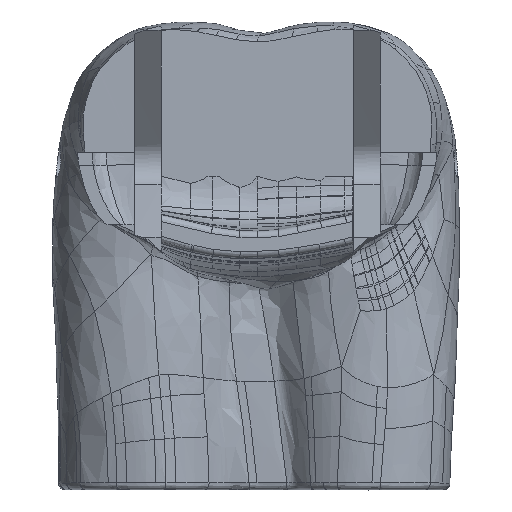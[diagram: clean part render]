
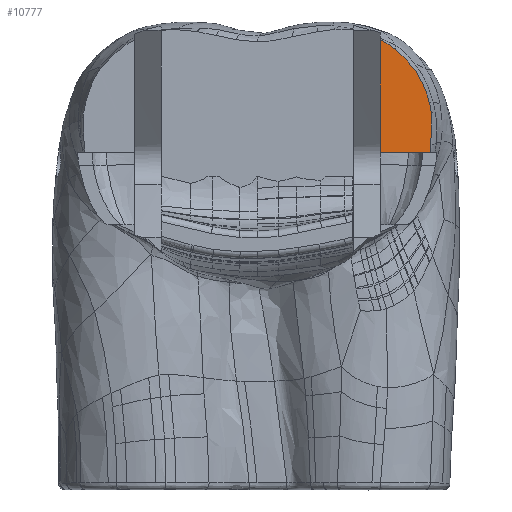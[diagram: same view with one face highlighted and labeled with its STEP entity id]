
A CAD part, top view. The second image highlights one B-rep face of the part: STEP entity #10777.
In plain terms, the highlighted planar face has unit normal (0, 0, 1).
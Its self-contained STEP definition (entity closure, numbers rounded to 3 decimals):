
#93=LINE('',#66846,#186);
#97=LINE('',#68137,#190);
#98=LINE('',#68139,#191);
#99=LINE('',#68141,#192);
#100=LINE('',#68143,#193);
#186=VECTOR('',#11305,28.854);
#190=VECTOR('',#11317,78.789);
#191=VECTOR('',#11318,20.617);
#192=VECTOR('',#11319,16.149);
#193=VECTOR('',#11320,10.483);
#253=PLANE('',#11094);
#1417=FACE_OUTER_BOUND('',#2127,.T.);
#2127=EDGE_LOOP('',(#9101,#9102,#9103,#9104,#9105,#9106,#9107,#9108,#9109,
#9110,#9111));
#3538=B_SPLINE_CURVE_WITH_KNOTS('',3,(#68107,#68108,#68109,#68110,#68111,
#68112,#68113,#68114,#68115,#68116,#68117,#68118,#68119,#68120,#68121,#68122,
#68123,#68124,#68125),.UNSPECIFIED.,.F.,.F.,(4,3,3,3,3,3,4),(0.,0.,
0.187,0.375,0.531,0.687,
1.),.UNSPECIFIED.);
#3539=B_SPLINE_CURVE_WITH_KNOTS('',3,(#68127,#68128,#68129,#68130,#68131,
#68132,#68133,#68134,#68135,#68136),.UNSPECIFIED.,.F.,.F.,(4,3,3,4),(0.,
0.089,0.544,1.),.UNSPECIFIED.);
#3540=B_SPLINE_CURVE_WITH_KNOTS('',3,(#68145,#68146,#68147,#68148),
 .UNSPECIFIED.,.F.,.F.,(4,4),(0.,1.),.UNSPECIFIED.);
#3541=B_SPLINE_CURVE_WITH_KNOTS('',3,(#68150,#68151,#68152,#68153,#68154,
#68155,#68156,#68157,#68158,#68159,#68160,#68161,#68162,#68163,#68164,#68165,
#68166,#68167,#68168,#68169,#68170,#68171),.UNSPECIFIED.,.F.,.F.,(4,3,3,
3,3,3,3,4),(-1.,-0.828,-0.657,-0.606,
-0.555,-0.416,-0.277,0.),
 .UNSPECIFIED.);
#3542=B_SPLINE_CURVE_WITH_KNOTS('',3,(#68173,#68174,#68175,#68176),
 .UNSPECIFIED.,.F.,.F.,(4,4),(-1.,0.),.UNSPECIFIED.);
#3543=B_SPLINE_CURVE_WITH_KNOTS('',3,(#68177,#68178,#68179,#68180,#68181,
#68182,#68183),.UNSPECIFIED.,.F.,.F.,(4,3,4),(-1.,0.,
0.),.UNSPECIFIED.);
#4737=VERTEX_POINT('',#66843);
#4738=VERTEX_POINT('',#66845);
#4756=VERTEX_POINT('',#68105);
#4757=VERTEX_POINT('',#68106);
#4758=VERTEX_POINT('',#68126);
#4759=VERTEX_POINT('',#68138);
#4760=VERTEX_POINT('',#68140);
#4761=VERTEX_POINT('',#68142);
#4762=VERTEX_POINT('',#68144);
#4763=VERTEX_POINT('',#68149);
#4764=VERTEX_POINT('',#68172);
#6239=EDGE_CURVE('',#4738,#4737,#93,.F.);
#6276=EDGE_CURVE('',#4756,#4757,#3538,.T.);
#6277=EDGE_CURVE('',#4758,#4756,#3539,.T.);
#6278=EDGE_CURVE('',#4758,#4738,#97,.F.);
#6279=EDGE_CURVE('',#4759,#4737,#98,.T.);
#6280=EDGE_CURVE('',#4760,#4759,#99,.T.);
#6281=EDGE_CURVE('',#4761,#4760,#100,.T.);
#6282=EDGE_CURVE('',#4762,#4761,#3540,.T.);
#6283=EDGE_CURVE('',#4763,#4762,#3541,.T.);
#6284=EDGE_CURVE('',#4764,#4763,#3542,.T.);
#6285=EDGE_CURVE('',#4757,#4764,#3543,.T.);
#9101=ORIENTED_EDGE('',*,*,#6276,.F.);
#9102=ORIENTED_EDGE('',*,*,#6277,.F.);
#9103=ORIENTED_EDGE('',*,*,#6278,.T.);
#9104=ORIENTED_EDGE('',*,*,#6239,.T.);
#9105=ORIENTED_EDGE('',*,*,#6279,.F.);
#9106=ORIENTED_EDGE('',*,*,#6280,.F.);
#9107=ORIENTED_EDGE('',*,*,#6281,.F.);
#9108=ORIENTED_EDGE('',*,*,#6282,.F.);
#9109=ORIENTED_EDGE('',*,*,#6283,.F.);
#9110=ORIENTED_EDGE('',*,*,#6284,.F.);
#9111=ORIENTED_EDGE('',*,*,#6285,.F.);
#10777=ADVANCED_FACE('',(#1417),#253,.F.);
#11094=AXIS2_PLACEMENT_3D('',#68104,#11315,#11316);
#11305=DIRECTION('',(0.,1.,0.));
#11315=DIRECTION('center_axis',(0.,0.,-1.));
#11316=DIRECTION('ref_axis',(-1.,0.,0.));
#11317=DIRECTION('',(0.,1.,0.));
#11318=DIRECTION('',(-1.,0.,0.));
#11319=DIRECTION('',(-1.,0.,0.));
#11320=DIRECTION('',(-1.,0.,0.));
#66843=CARTESIAN_POINT('',(117.961,-124.355,-65.885));
#66845=CARTESIAN_POINT('',(117.961,-95.501,-65.885));
#66846=CARTESIAN_POINT('',(117.961,-124.355,-65.885));
#68104=CARTESIAN_POINT('Origin',(0.,-222.899,-65.885));
#68105=CARTESIAN_POINT('',(132.373,-26.384,-65.88));
#68106=CARTESIAN_POINT('',(152.296,-46.84,-65.885));
#68107=CARTESIAN_POINT('Ctrl Pts',(132.376,-26.383,-65.885));
#68108=CARTESIAN_POINT('Ctrl Pts',(132.376,-26.383,-65.885));
#68109=CARTESIAN_POINT('Ctrl Pts',(132.376,-26.383,-65.885));
#68110=CARTESIAN_POINT('Ctrl Pts',(132.376,-26.383,-65.885));
#68111=CARTESIAN_POINT('Ctrl Pts',(133.77,-27.506,-65.885));
#68112=CARTESIAN_POINT('Ctrl Pts',(135.123,-28.681,-65.885));
#68113=CARTESIAN_POINT('Ctrl Pts',(136.441,-29.89,-65.885));
#68114=CARTESIAN_POINT('Ctrl Pts',(137.759,-31.1,-65.885));
#68115=CARTESIAN_POINT('Ctrl Pts',(139.043,-32.344,-65.885));
#68116=CARTESIAN_POINT('Ctrl Pts',(140.304,-33.608,-65.885));
#68117=CARTESIAN_POINT('Ctrl Pts',(141.356,-34.664,-65.885));
#68118=CARTESIAN_POINT('Ctrl Pts',(142.392,-35.734,-65.885));
#68119=CARTESIAN_POINT('Ctrl Pts',(143.414,-36.816,-65.885));
#68120=CARTESIAN_POINT('Ctrl Pts',(144.437,-37.899,-65.885));
#68121=CARTESIAN_POINT('Ctrl Pts',(145.446,-38.995,-65.885));
#68122=CARTESIAN_POINT('Ctrl Pts',(146.442,-40.101,-65.885));
#68123=CARTESIAN_POINT('Ctrl Pts',(148.435,-42.311,-65.885));
#68124=CARTESIAN_POINT('Ctrl Pts',(150.38,-44.562,-65.885));
#68125=CARTESIAN_POINT('Ctrl Pts',(152.294,-46.837,-65.885));
#68126=CARTESIAN_POINT('',(117.961,-16.712,-65.885));
#68127=CARTESIAN_POINT('Ctrl Pts',(117.961,-16.712,-65.885));
#68128=CARTESIAN_POINT('Ctrl Pts',(118.433,-16.921,-65.885));
#68129=CARTESIAN_POINT('Ctrl Pts',(118.895,-17.154,-65.885));
#68130=CARTESIAN_POINT('Ctrl Pts',(119.352,-17.396,-65.885));
#68131=CARTESIAN_POINT('Ctrl Pts',(121.689,-18.633,-65.885));
#68132=CARTESIAN_POINT('Ctrl Pts',(123.896,-20.087,-65.885));
#68133=CARTESIAN_POINT('Ctrl Pts',(126.078,-21.58,-65.885));
#68134=CARTESIAN_POINT('Ctrl Pts',(128.263,-23.074,-65.885));
#68135=CARTESIAN_POINT('Ctrl Pts',(130.423,-24.609,-65.885));
#68136=CARTESIAN_POINT('Ctrl Pts',(132.346,-26.415,-65.885));
#68137=CARTESIAN_POINT('',(117.961,-95.501,-65.885));
#68138=CARTESIAN_POINT('',(138.571,-124.355,-65.885));
#68139=CARTESIAN_POINT('',(138.571,-124.355,-65.885));
#68140=CARTESIAN_POINT('',(154.72,-124.355,-65.885));
#68141=CARTESIAN_POINT('',(154.72,-124.355,-65.885));
#68142=CARTESIAN_POINT('',(165.227,-124.358,-65.897));
#68143=CARTESIAN_POINT('',(165.203,-124.355,-65.885));
#68144=CARTESIAN_POINT('',(165.812,-117.568,-65.893));
#68145=CARTESIAN_POINT('Ctrl Pts',(165.807,-117.57,-65.885));
#68146=CARTESIAN_POINT('Ctrl Pts',(165.809,-119.84,-65.885));
#68147=CARTESIAN_POINT('Ctrl Pts',(165.528,-122.099,-65.885));
#68148=CARTESIAN_POINT('Ctrl Pts',(165.197,-124.351,-65.885));
#68149=CARTESIAN_POINT('',(166.458,-86.196,-65.885));
#68150=CARTESIAN_POINT('Ctrl Pts',(166.458,-86.196,-65.885));
#68151=CARTESIAN_POINT('Ctrl Pts',(166.65,-87.979,-65.885));
#68152=CARTESIAN_POINT('Ctrl Pts',(166.753,-89.771,-65.885));
#68153=CARTESIAN_POINT('Ctrl Pts',(166.803,-91.566,-65.885));
#68154=CARTESIAN_POINT('Ctrl Pts',(166.853,-93.361,-65.885));
#68155=CARTESIAN_POINT('Ctrl Pts',(166.849,-95.16,-65.885));
#68156=CARTESIAN_POINT('Ctrl Pts',(166.827,-96.958,-65.885));
#68157=CARTESIAN_POINT('Ctrl Pts',(166.821,-97.494,-65.885));
#68158=CARTESIAN_POINT('Ctrl Pts',(166.812,-98.03,-65.885));
#68159=CARTESIAN_POINT('Ctrl Pts',(166.804,-98.566,-65.885));
#68160=CARTESIAN_POINT('Ctrl Pts',(166.796,-99.101,-65.885));
#68161=CARTESIAN_POINT('Ctrl Pts',(166.788,-99.637,-65.885));
#68162=CARTESIAN_POINT('Ctrl Pts',(166.778,-100.172,-65.885));
#68163=CARTESIAN_POINT('Ctrl Pts',(166.75,-101.624,-65.885));
#68164=CARTESIAN_POINT('Ctrl Pts',(166.706,-103.075,-65.885));
#68165=CARTESIAN_POINT('Ctrl Pts',(166.643,-104.526,-65.885));
#68166=CARTESIAN_POINT('Ctrl Pts',(166.58,-105.977,-65.885));
#68167=CARTESIAN_POINT('Ctrl Pts',(166.499,-107.427,-65.885));
#68168=CARTESIAN_POINT('Ctrl Pts',(166.408,-108.877,-65.885));
#68169=CARTESIAN_POINT('Ctrl Pts',(166.227,-111.775,-65.885));
#68170=CARTESIAN_POINT('Ctrl Pts',(166.009,-114.671,-65.885));
#68171=CARTESIAN_POINT('Ctrl Pts',(165.807,-117.567,-65.885));
#68172=CARTESIAN_POINT('',(164.576,-76.531,-65.885));
#68173=CARTESIAN_POINT('Ctrl Pts',(164.576,-76.531,-65.885));
#68174=CARTESIAN_POINT('Ctrl Pts',(165.616,-79.643,-65.885));
#68175=CARTESIAN_POINT('Ctrl Pts',(166.105,-82.931,-65.885));
#68176=CARTESIAN_POINT('Ctrl Pts',(166.458,-86.196,-65.885));
#68177=CARTESIAN_POINT('Ctrl Pts',(152.298,-46.843,-65.885));
#68178=CARTESIAN_POINT('Ctrl Pts',(158.307,-57.02,-65.885));
#68179=CARTESIAN_POINT('Ctrl Pts',(162.4,-66.916,-65.885));
#68180=CARTESIAN_POINT('Ctrl Pts',(164.576,-76.531,-65.885));
#68181=CARTESIAN_POINT('Ctrl Pts',(164.576,-76.531,-65.885));
#68182=CARTESIAN_POINT('Ctrl Pts',(164.576,-76.531,-65.885));
#68183=CARTESIAN_POINT('Ctrl Pts',(164.576,-76.531,-65.885));
